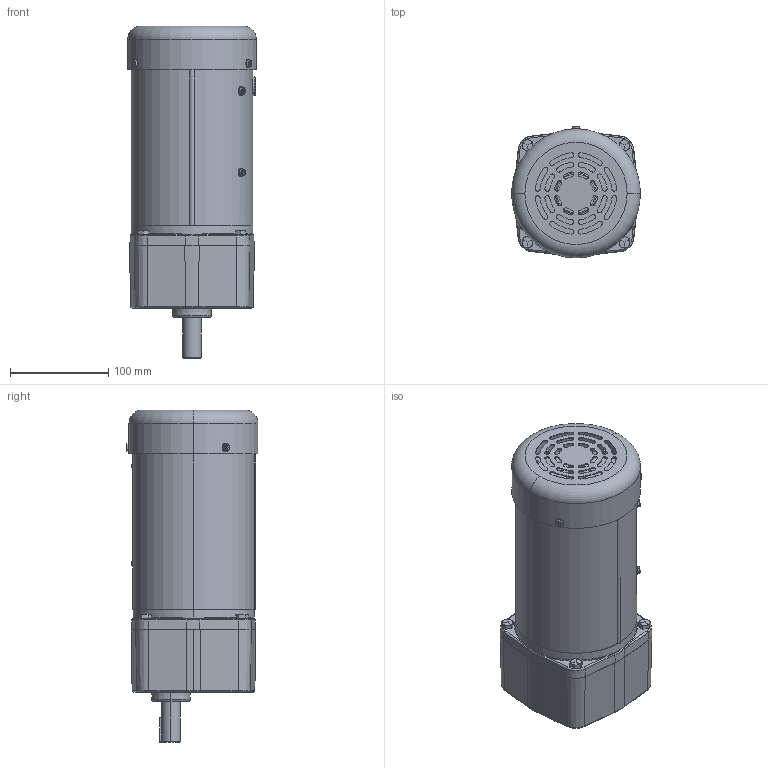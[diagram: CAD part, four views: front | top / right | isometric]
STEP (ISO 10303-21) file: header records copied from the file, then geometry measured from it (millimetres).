
FILE_DESCRIPTION (( 'STEP AP203' ), '1' );
FILE_NAME ('027689-096004_Rev01.STEP', '2017-11-01T09:33:22', ( '' ), ( '' ), 'SwSTEP 2.0', 'SolidWorks 2015', '' );
FILE_SCHEMA (( 'CONFIG_CONTROL_DESIGN' ));
Length unit declared in the file: inch
Products named in the file (1): 027689-096004_Rev01
Bounding box: 131.06 x 134.06 x 337.41 mm (x, y, z)
Volume: 797558.5 mm3; surface area: 399456.9 mm2
Topology: 28 solids, 28 shells, 2833 faces, 6723 edges, 3959 vertices
Faces by surface type: cylinder 705, bspline 659, plane 612, cone 379, torus 374, sphere 104
Entity records: 104301 total; most frequent: CARTESIAN_POINT 43782, ORIENTED_EDGE 13206, DIRECTION 12074, EDGE_CURVE 6603, AXIS2_PLACEMENT_3D 5145, VERTEX_POINT 3949, EDGE_LOOP 3068, CIRCLE 2970
